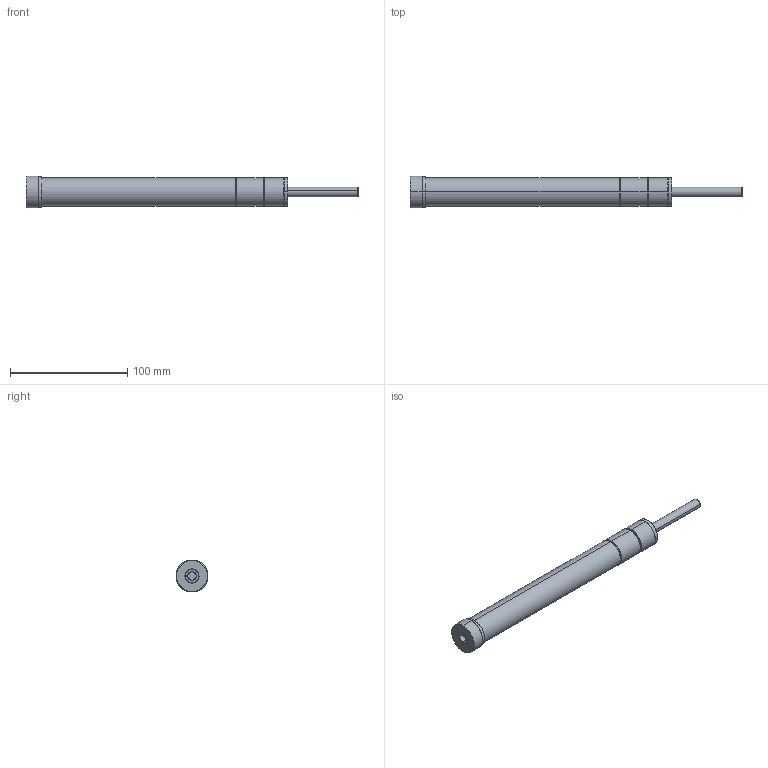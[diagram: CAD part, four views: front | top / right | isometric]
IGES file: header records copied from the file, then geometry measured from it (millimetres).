
Start section: SolidWorks IGES file using analytic representation for surfaces
Global section: file name: D:\IGS跡宒\HR60.IGS,1; native system: 5HSolidWorks 2013; preprocessor: SolidWorks 2013; author: Administrator; date: 160406.153956; units: inch
Bounding box: 283.5 x 27.3 x 27.3 mm (x, y, z)
Surface area: 23109.8 mm2 (no closed solid volume)
Topology: 0 solids, 0 shells, 52 faces, 1028 edges, 1026 vertices
Faces by surface type: revolution 40, bspline 12
